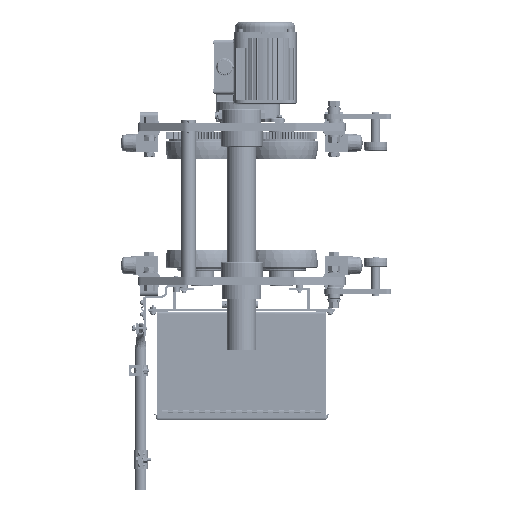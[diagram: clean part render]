
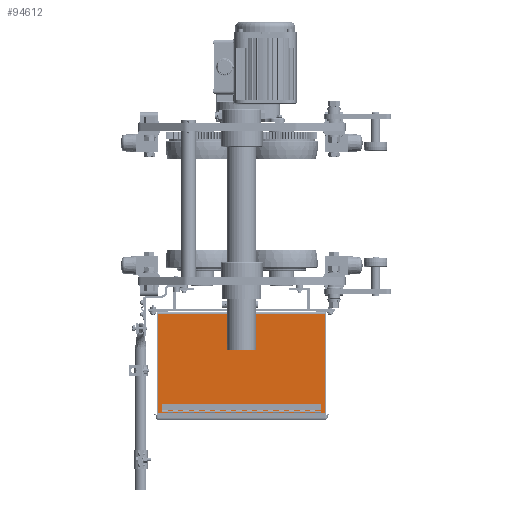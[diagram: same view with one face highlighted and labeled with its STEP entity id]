
A CAD part, front view. The second image highlights one B-rep face of the part: STEP entity #94612.
In plain terms, the highlighted planar face has unit normal (0, -1, 0) as drawn and (0, 0, 1) by its records, which use the part's own axes.
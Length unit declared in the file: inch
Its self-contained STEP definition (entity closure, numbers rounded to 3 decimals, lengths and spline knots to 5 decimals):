
#1765 = DIRECTION ( 'NONE',  ( -1., 0., 0. ) ) ;
#20039 = CARTESIAN_POINT ( 'NONE',  ( 80.61411, -2.50914, 12.72577 ) ) ;
#25003 = EDGE_CURVE ( 'NONE', #210656, #105599, #40893, .T. ) ;
#30571 = DIRECTION ( 'NONE',  ( 0., 1., 0. ) ) ;
#31548 = ORIENTED_EDGE ( 'NONE', *, *, #25003, .F. ) ;
#34856 = VECTOR ( 'NONE', #194836, 39.37008 ) ;
#40893 = LINE ( 'NONE', #81375, #165391 ) ;
#43166 = CARTESIAN_POINT ( 'NONE',  ( 0.51504, 7.16686, 12.72577 ) ) ;
#48879 = DIRECTION ( 'NONE',  ( 0., 0., -1. ) ) ;
#49369 = CARTESIAN_POINT ( 'NONE',  ( -15.33082, 7.16686, 12.72577 ) ) ;
#55942 = EDGE_CURVE ( 'NONE', #247617, #210656, #233995, .T. ) ;
#57904 = EDGE_CURVE ( 'NONE', #105599, #215922, #199096, .T. ) ;
#81375 = CARTESIAN_POINT ( 'NONE',  ( 0.51504, 7.16686, 12.72577 ) ) ;
#84834 = CARTESIAN_POINT ( 'NONE',  ( 0.51504, -2.50914, 12.72577 ) ) ;
#93713 = CARTESIAN_POINT ( 'NONE',  ( -15.33082, 7.16686, 12.72577 ) ) ;
#94612 = ADVANCED_FACE ( 'NONE', ( #147026 ), #126109, .F. ) ;
#94947 = DIRECTION ( 'NONE',  ( 0., -1., 0. ) ) ;
#103498 = EDGE_LOOP ( 'NONE', ( #132460, #31548, #224442, #112211 ) ) ;
#105599 = VERTEX_POINT ( 'NONE', #84834 ) ;
#106994 = LINE ( 'NONE', #49369, #123848 ) ;
#112211 = ORIENTED_EDGE ( 'NONE', *, *, #217120, .F. ) ;
#123848 = VECTOR ( 'NONE', #203703, 39.37008 ) ;
#126109 = PLANE ( 'NONE',  #212648 ) ;
#130948 = VECTOR ( 'NONE', #1765, 39.37008 ) ;
#132460 = ORIENTED_EDGE ( 'NONE', *, *, #57904, .F. ) ;
#147026 = FACE_OUTER_BOUND ( 'NONE', #103498, .T. ) ;
#165391 = VECTOR ( 'NONE', #94947, 39.37008 ) ;
#172510 = CARTESIAN_POINT ( 'NONE',  ( -15.33082, -2.50914, 12.72577 ) ) ;
#194836 = DIRECTION ( 'NONE',  ( 1., 0., 0. ) ) ;
#199096 = LINE ( 'NONE', #20039, #130948 ) ;
#203703 = DIRECTION ( 'NONE',  ( 0., 1., 0. ) ) ;
#210656 = VERTEX_POINT ( 'NONE', #43166 ) ;
#212648 = AXIS2_PLACEMENT_3D ( 'NONE', #227941, #48879, #30571 ) ;
#214425 = CARTESIAN_POINT ( 'NONE',  ( 80.61411, 7.16686, 12.72577 ) ) ;
#215922 = VERTEX_POINT ( 'NONE', #172510 ) ;
#217120 = EDGE_CURVE ( 'NONE', #215922, #247617, #106994, .T. ) ;
#224442 = ORIENTED_EDGE ( 'NONE', *, *, #55942, .F. ) ;
#227941 = CARTESIAN_POINT ( 'NONE',  ( 80.61411, 7.16686, 12.72577 ) ) ;
#233995 = LINE ( 'NONE', #214425, #34856 ) ;
#247617 = VERTEX_POINT ( 'NONE', #93713 ) ;
